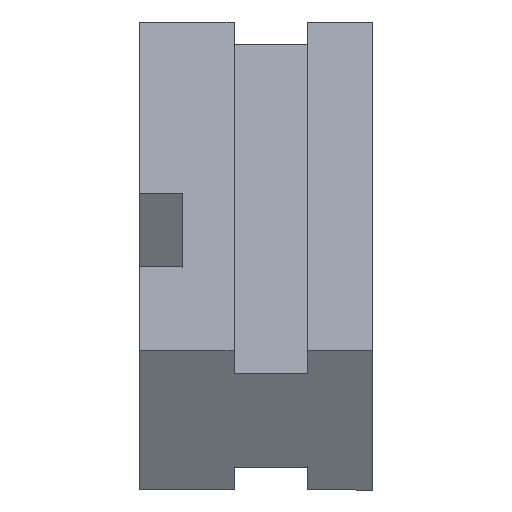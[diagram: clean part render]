
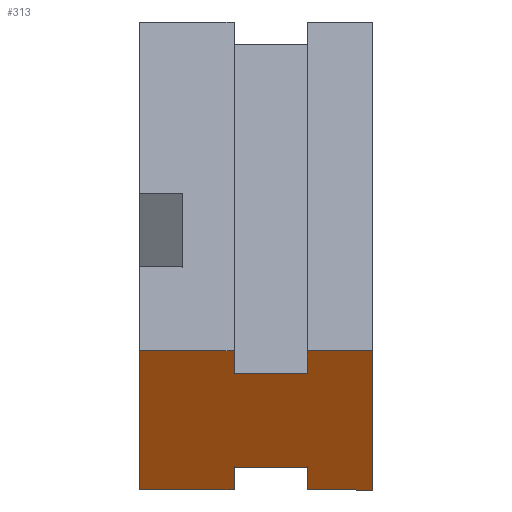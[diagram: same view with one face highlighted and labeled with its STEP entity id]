
A CAD part, front view. The second image highlights one B-rep face of the part: STEP entity #313.
In plain terms, the highlighted planar face has unit normal (0, -0.866, -0.5) as drawn and (-1, 0, 0) by its records, which use the part's own axes.
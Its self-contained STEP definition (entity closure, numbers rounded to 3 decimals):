
#76=CARTESIAN_POINT('Vertex',(0.,-7.4,0.)) ;
#81=CARTESIAN_POINT('Line Origine',(0.,-7.4,-5.)) ;
#85=CARTESIAN_POINT('Vertex',(0.,-7.4,-10.)) ;
#207=CARTESIAN_POINT('Line Origine',(0.,-9.2,-10.)) ;
#211=CARTESIAN_POINT('Vertex',(0.,-11.,-10.)) ;
#226=CARTESIAN_POINT('Axis2P3D Location',(0.,0.,0.)) ;
#231=CARTESIAN_POINT('Line Origine',(0.,-9.2,0.)) ;
#235=CARTESIAN_POINT('Vertex',(0.,-11.,0.)) ;
#238=CARTESIAN_POINT('Line Origine',(0.,-11.,6.5)) ;
#242=CARTESIAN_POINT('Vertex',(0.,-11.,13.)) ;
#245=CARTESIAN_POINT('Line Origine',(0.,0.,13.)) ;
#249=CARTESIAN_POINT('Vertex',(0.,11.,13.)) ;
#252=CARTESIAN_POINT('Line Origine',(0.,11.,6.5)) ;
#256=CARTESIAN_POINT('Vertex',(0.,11.,0.)) ;
#259=CARTESIAN_POINT('Line Origine',(0.,9.2,0.)) ;
#263=CARTESIAN_POINT('Vertex',(0.,7.4,0.)) ;
#266=CARTESIAN_POINT('Line Origine',(0.,7.4,-5.)) ;
#270=CARTESIAN_POINT('Vertex',(0.,7.4,-10.)) ;
#273=CARTESIAN_POINT('Line Origine',(0.,9.2,-10.)) ;
#277=CARTESIAN_POINT('Vertex',(0.,11.,-10.)) ;
#280=CARTESIAN_POINT('Line Origine',(0.,11.,-14.5)) ;
#284=CARTESIAN_POINT('Vertex',(0.,11.,-19.)) ;
#287=CARTESIAN_POINT('Line Origine',(0.,0.,-19.)) ;
#291=CARTESIAN_POINT('Vertex',(0.,-11.,-19.)) ;
#294=CARTESIAN_POINT('Line Origine',(0.,-11.,-14.5)) ;
#82=DIRECTION('Vector Direction',(0.,0.,1.)) ;
#208=DIRECTION('Vector Direction',(0.,1.,0.)) ;
#227=DIRECTION('Axis2P3D Direction',(1.,0.,0.)) ;
#228=DIRECTION('Axis2P3D XDirection',(0.,1.,0.)) ;
#232=DIRECTION('Vector Direction',(0.,-1.,0.)) ;
#239=DIRECTION('Vector Direction',(0.,0.,1.)) ;
#246=DIRECTION('Vector Direction',(0.,1.,0.)) ;
#253=DIRECTION('Vector Direction',(0.,0.,-1.)) ;
#260=DIRECTION('Vector Direction',(0.,-1.,0.)) ;
#267=DIRECTION('Vector Direction',(0.,0.,-1.)) ;
#274=DIRECTION('Vector Direction',(0.,1.,0.)) ;
#281=DIRECTION('Vector Direction',(0.,0.,-1.)) ;
#288=DIRECTION('Vector Direction',(0.,-1.,0.)) ;
#295=DIRECTION('Vector Direction',(0.,0.,1.)) ;
#229=AXIS2_PLACEMENT_3D('Plane Axis2P3D',#226,#227,#228) ;
#300=ORIENTED_EDGE('',*,*,#237,.F.) ;
#301=ORIENTED_EDGE('',*,*,#244,.F.) ;
#302=ORIENTED_EDGE('',*,*,#251,.F.) ;
#303=ORIENTED_EDGE('',*,*,#258,.F.) ;
#304=ORIENTED_EDGE('',*,*,#265,.F.) ;
#305=ORIENTED_EDGE('',*,*,#272,.F.) ;
#306=ORIENTED_EDGE('',*,*,#279,.F.) ;
#307=ORIENTED_EDGE('',*,*,#286,.F.) ;
#308=ORIENTED_EDGE('',*,*,#293,.F.) ;
#309=ORIENTED_EDGE('',*,*,#298,.F.) ;
#310=ORIENTED_EDGE('',*,*,#213,.F.) ;
#311=ORIENTED_EDGE('',*,*,#87,.F.) ;
#83=VECTOR('Line Direction',#82,1.) ;
#209=VECTOR('Line Direction',#208,1.) ;
#233=VECTOR('Line Direction',#232,1.) ;
#240=VECTOR('Line Direction',#239,1.) ;
#247=VECTOR('Line Direction',#246,1.) ;
#254=VECTOR('Line Direction',#253,1.) ;
#261=VECTOR('Line Direction',#260,1.) ;
#268=VECTOR('Line Direction',#267,1.) ;
#275=VECTOR('Line Direction',#274,1.) ;
#282=VECTOR('Line Direction',#281,1.) ;
#289=VECTOR('Line Direction',#288,1.) ;
#296=VECTOR('Line Direction',#295,1.) ;
#313=ADVANCED_FACE('',(#312),#230,.F.) ;
#87=EDGE_CURVE('',#77,#86,#84,.F.) ;
#213=EDGE_CURVE('',#86,#212,#210,.F.) ;
#237=EDGE_CURVE('',#236,#77,#234,.F.) ;
#244=EDGE_CURVE('',#243,#236,#241,.F.) ;
#251=EDGE_CURVE('',#250,#243,#248,.F.) ;
#258=EDGE_CURVE('',#257,#250,#255,.F.) ;
#265=EDGE_CURVE('',#264,#257,#262,.F.) ;
#272=EDGE_CURVE('',#271,#264,#269,.F.) ;
#279=EDGE_CURVE('',#278,#271,#276,.F.) ;
#286=EDGE_CURVE('',#285,#278,#283,.F.) ;
#293=EDGE_CURVE('',#292,#285,#290,.F.) ;
#298=EDGE_CURVE('',#212,#292,#297,.F.) ;
#299=EDGE_LOOP('',(#300,#301,#302,#303,#304,#305,#306,#307,#308,#309,#310,#311)) ;
#312=FACE_OUTER_BOUND('',#299,.T.) ;
#84=LINE('Line',#81,#83) ;
#210=LINE('Line',#207,#209) ;
#234=LINE('Line',#231,#233) ;
#241=LINE('Line',#238,#240) ;
#248=LINE('Line',#245,#247) ;
#255=LINE('Line',#252,#254) ;
#262=LINE('Line',#259,#261) ;
#269=LINE('Line',#266,#268) ;
#276=LINE('Line',#273,#275) ;
#283=LINE('Line',#280,#282) ;
#290=LINE('Line',#287,#289) ;
#297=LINE('Line',#294,#296) ;
#230=PLANE('Plane',#229) ;
#77=VERTEX_POINT('',#76) ;
#86=VERTEX_POINT('',#85) ;
#212=VERTEX_POINT('',#211) ;
#236=VERTEX_POINT('',#235) ;
#243=VERTEX_POINT('',#242) ;
#250=VERTEX_POINT('',#249) ;
#257=VERTEX_POINT('',#256) ;
#264=VERTEX_POINT('',#263) ;
#271=VERTEX_POINT('',#270) ;
#278=VERTEX_POINT('',#277) ;
#285=VERTEX_POINT('',#284) ;
#292=VERTEX_POINT('',#291) ;
